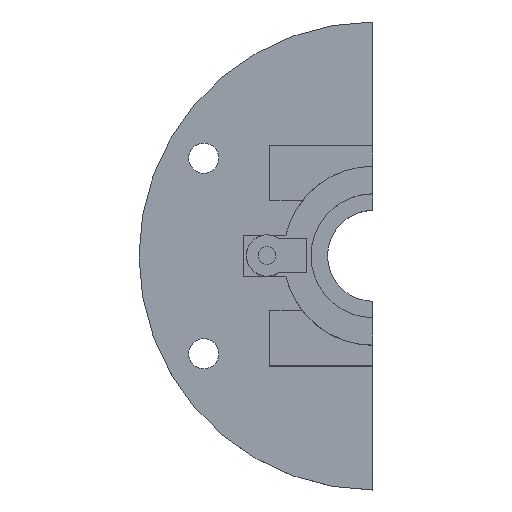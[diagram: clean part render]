
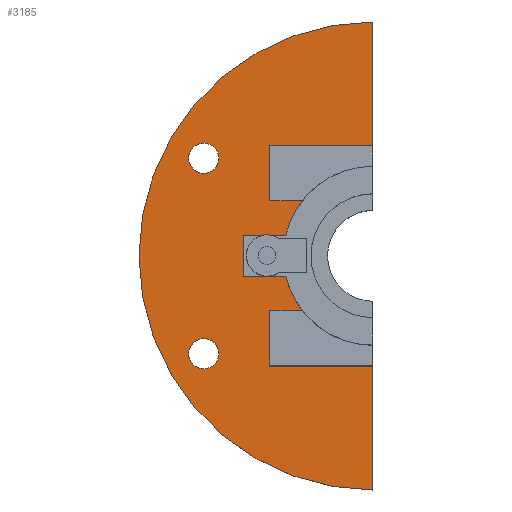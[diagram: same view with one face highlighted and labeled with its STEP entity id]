
A CAD part, top view. The second image highlights one B-rep face of the part: STEP entity #3185.
In plain terms, the highlighted planar face has unit normal (0, 0, 1).
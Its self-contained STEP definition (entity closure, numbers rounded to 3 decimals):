
#33 = CYLINDRICAL_SURFACE('',#34,6.5);
#34 = AXIS2_PLACEMENT_3D('',#35,#36,#37);
#35 = CARTESIAN_POINT('',(0.,0.,1.5));
#36 = DIRECTION('',(0.,0.,1.));
#37 = DIRECTION('',(1.,0.,-0.));
#115 = VERTEX_POINT('',#116);
#116 = CARTESIAN_POINT('',(0.,6.5,3.));
#129 = PLANE('',#130);
#130 = AXIS2_PLACEMENT_3D('',#131,#132,#133);
#131 = CARTESIAN_POINT('',(0.,-60.,-70.));
#132 = DIRECTION('',(1.,0.,0.));
#133 = DIRECTION('',(0.,0.,1.));
#141 = EDGE_CURVE('',#115,#142,#144,.T.);
#142 = VERTEX_POINT('',#143);
#143 = CARTESIAN_POINT('',(0.,-6.5,3.));
#144 = SURFACE_CURVE('',#145,(#150,#157),.PCURVE_S1.);
#145 = CIRCLE('',#146,6.5);
#146 = AXIS2_PLACEMENT_3D('',#147,#148,#149);
#147 = CARTESIAN_POINT('',(0.,0.,3.));
#148 = DIRECTION('',(0.,0.,1.));
#149 = DIRECTION('',(1.,0.,-0.));
#150 = PCURVE('',#33,#151);
#151 = DEFINITIONAL_REPRESENTATION('',(#152),#156);
#152 = LINE('',#153,#154);
#153 = CARTESIAN_POINT('',(0.,1.5));
#154 = VECTOR('',#155,1.);
#155 = DIRECTION('',(1.,0.));
#156 = ( GEOMETRIC_REPRESENTATION_CONTEXT(2) 
PARAMETRIC_REPRESENTATION_CONTEXT() REPRESENTATION_CONTEXT('2D SPACE',''
  ) );
#157 = PCURVE('',#158,#163);
#158 = PLANE('',#159);
#159 = AXIS2_PLACEMENT_3D('',#160,#161,#162);
#160 = CARTESIAN_POINT('',(0.,0.,3.));
#161 = DIRECTION('',(0.,0.,1.));
#162 = DIRECTION('',(1.,0.,-0.));
#163 = DEFINITIONAL_REPRESENTATION('',(#164),#168);
#164 = CIRCLE('',#165,6.5);
#165 = AXIS2_PLACEMENT_2D('',#166,#167);
#166 = CARTESIAN_POINT('',(0.,0.));
#167 = DIRECTION('',(1.,0.));
#168 = ( GEOMETRIC_REPRESENTATION_CONTEXT(2) 
PARAMETRIC_REPRESENTATION_CONTEXT() REPRESENTATION_CONTEXT('2D SPACE',''
  ) );
#185 = PLANE('',#186);
#186 = AXIS2_PLACEMENT_3D('',#187,#188,#189);
#187 = CARTESIAN_POINT('',(0.,-60.,-70.));
#188 = DIRECTION('',(1.,0.,0.));
#189 = DIRECTION('',(0.,0.,1.));
#771 = VERTEX_POINT('',#772);
#772 = CARTESIAN_POINT('',(0.,17.,3.));
#786 = CYLINDRICAL_SURFACE('',#787,17.);
#787 = AXIS2_PLACEMENT_3D('',#788,#789,#790);
#788 = CARTESIAN_POINT('',(0.,0.,1.5));
#789 = DIRECTION('',(0.,0.,1.));
#790 = DIRECTION('',(1.,0.,-0.));
#797 = EDGE_CURVE('',#115,#771,#798,.T.);
#798 = SURFACE_CURVE('',#799,(#803,#810),.PCURVE_S1.);
#799 = LINE('',#800,#801);
#800 = CARTESIAN_POINT('',(0.,-30.,3.));
#801 = VECTOR('',#802,1.);
#802 = DIRECTION('',(0.,1.,0.));
#803 = PCURVE('',#129,#804);
#804 = DEFINITIONAL_REPRESENTATION('',(#805),#809);
#805 = LINE('',#806,#807);
#806 = CARTESIAN_POINT('',(73.,-30.));
#807 = VECTOR('',#808,1.);
#808 = DIRECTION('',(0.,-1.));
#809 = ( GEOMETRIC_REPRESENTATION_CONTEXT(2) 
PARAMETRIC_REPRESENTATION_CONTEXT() REPRESENTATION_CONTEXT('2D SPACE',''
  ) );
#810 = PCURVE('',#158,#811);
#811 = DEFINITIONAL_REPRESENTATION('',(#812),#816);
#812 = LINE('',#813,#814);
#813 = CARTESIAN_POINT('',(0.,-30.));
#814 = VECTOR('',#815,1.);
#815 = DIRECTION('',(0.,1.));
#816 = ( GEOMETRIC_REPRESENTATION_CONTEXT(2) 
PARAMETRIC_REPRESENTATION_CONTEXT() REPRESENTATION_CONTEXT('2D SPACE',''
  ) );
#1122 = EDGE_CURVE('',#1123,#142,#1125,.T.);
#1123 = VERTEX_POINT('',#1124);
#1124 = CARTESIAN_POINT('',(0.,-17.,3.));
#1125 = SURFACE_CURVE('',#1126,(#1130,#1137),.PCURVE_S1.);
#1126 = LINE('',#1127,#1128);
#1127 = CARTESIAN_POINT('',(0.,-30.,3.));
#1128 = VECTOR('',#1129,1.);
#1129 = DIRECTION('',(0.,1.,0.));
#1130 = PCURVE('',#185,#1131);
#1131 = DEFINITIONAL_REPRESENTATION('',(#1132),#1136);
#1132 = LINE('',#1133,#1134);
#1133 = CARTESIAN_POINT('',(73.,-30.));
#1134 = VECTOR('',#1135,1.);
#1135 = DIRECTION('',(0.,-1.));
#1136 = ( GEOMETRIC_REPRESENTATION_CONTEXT(2) 
PARAMETRIC_REPRESENTATION_CONTEXT() REPRESENTATION_CONTEXT('2D SPACE',''
  ) );
#1137 = PCURVE('',#158,#1138);
#1138 = DEFINITIONAL_REPRESENTATION('',(#1139),#1143);
#1139 = LINE('',#1140,#1141);
#1140 = CARTESIAN_POINT('',(0.,-30.));
#1141 = VECTOR('',#1142,1.);
#1142 = DIRECTION('',(0.,1.));
#1143 = ( GEOMETRIC_REPRESENTATION_CONTEXT(2) 
PARAMETRIC_REPRESENTATION_CONTEXT() REPRESENTATION_CONTEXT('2D SPACE',''
  ) );
#3185 = ADVANCED_FACE('',(#3186,#3213,#3244),#158,.T.);
#3186 = FACE_BOUND('',#3187,.T.);
#3187 = EDGE_LOOP('',(#3188,#3189,#3211,#3212));
#3188 = ORIENTED_EDGE('',*,*,#797,.T.);
#3189 = ORIENTED_EDGE('',*,*,#3190,.T.);
#3190 = EDGE_CURVE('',#771,#1123,#3191,.T.);
#3191 = SURFACE_CURVE('',#3192,(#3197,#3204),.PCURVE_S1.);
#3192 = CIRCLE('',#3193,17.);
#3193 = AXIS2_PLACEMENT_3D('',#3194,#3195,#3196);
#3194 = CARTESIAN_POINT('',(0.,0.,3.));
#3195 = DIRECTION('',(0.,0.,1.));
#3196 = DIRECTION('',(1.,0.,-0.));
#3197 = PCURVE('',#158,#3198);
#3198 = DEFINITIONAL_REPRESENTATION('',(#3199),#3203);
#3199 = CIRCLE('',#3200,17.);
#3200 = AXIS2_PLACEMENT_2D('',#3201,#3202);
#3201 = CARTESIAN_POINT('',(0.,0.));
#3202 = DIRECTION('',(1.,0.));
#3203 = ( GEOMETRIC_REPRESENTATION_CONTEXT(2) 
PARAMETRIC_REPRESENTATION_CONTEXT() REPRESENTATION_CONTEXT('2D SPACE',''
  ) );
#3204 = PCURVE('',#786,#3205);
#3205 = DEFINITIONAL_REPRESENTATION('',(#3206),#3210);
#3206 = LINE('',#3207,#3208);
#3207 = CARTESIAN_POINT('',(0.,1.5));
#3208 = VECTOR('',#3209,1.);
#3209 = DIRECTION('',(1.,0.));
#3210 = ( GEOMETRIC_REPRESENTATION_CONTEXT(2) 
PARAMETRIC_REPRESENTATION_CONTEXT() REPRESENTATION_CONTEXT('2D SPACE',''
  ) );
#3211 = ORIENTED_EDGE('',*,*,#1122,.T.);
#3212 = ORIENTED_EDGE('',*,*,#141,.F.);
#3213 = FACE_BOUND('',#3214,.T.);
#3214 = EDGE_LOOP('',(#3215));
#3215 = ORIENTED_EDGE('',*,*,#3216,.F.);
#3216 = EDGE_CURVE('',#3217,#3217,#3219,.T.);
#3217 = VERTEX_POINT('',#3218);
#3218 = CARTESIAN_POINT('',(-11.2,-7.1,3.));
#3219 = SURFACE_CURVE('',#3220,(#3225,#3232),.PCURVE_S1.);
#3220 = CIRCLE('',#3221,1.1);
#3221 = AXIS2_PLACEMENT_3D('',#3222,#3223,#3224);
#3222 = CARTESIAN_POINT('',(-12.3,-7.1,3.));
#3223 = DIRECTION('',(0.,0.,1.));
#3224 = DIRECTION('',(1.,0.,-0.));
#3225 = PCURVE('',#158,#3226);
#3226 = DEFINITIONAL_REPRESENTATION('',(#3227),#3231);
#3227 = CIRCLE('',#3228,1.1);
#3228 = AXIS2_PLACEMENT_2D('',#3229,#3230);
#3229 = CARTESIAN_POINT('',(-12.3,-7.1));
#3230 = DIRECTION('',(1.,0.));
#3231 = ( GEOMETRIC_REPRESENTATION_CONTEXT(2) 
PARAMETRIC_REPRESENTATION_CONTEXT() REPRESENTATION_CONTEXT('2D SPACE',''
  ) );
#3232 = PCURVE('',#3233,#3238);
#3233 = CYLINDRICAL_SURFACE('',#3234,1.1);
#3234 = AXIS2_PLACEMENT_3D('',#3235,#3236,#3237);
#3235 = CARTESIAN_POINT('',(-12.3,-7.1,1.4));
#3236 = DIRECTION('',(0.,0.,1.));
#3237 = DIRECTION('',(1.,0.,-0.));
#3238 = DEFINITIONAL_REPRESENTATION('',(#3239),#3243);
#3239 = LINE('',#3240,#3241);
#3240 = CARTESIAN_POINT('',(0.,1.6));
#3241 = VECTOR('',#3242,1.);
#3242 = DIRECTION('',(1.,0.));
#3243 = ( GEOMETRIC_REPRESENTATION_CONTEXT(2) 
PARAMETRIC_REPRESENTATION_CONTEXT() REPRESENTATION_CONTEXT('2D SPACE',''
  ) );
#3244 = FACE_BOUND('',#3245,.T.);
#3245 = EDGE_LOOP('',(#3246));
#3246 = ORIENTED_EDGE('',*,*,#3247,.F.);
#3247 = EDGE_CURVE('',#3248,#3248,#3250,.T.);
#3248 = VERTEX_POINT('',#3249);
#3249 = CARTESIAN_POINT('',(-11.2,7.1,3.));
#3250 = SURFACE_CURVE('',#3251,(#3256,#3263),.PCURVE_S1.);
#3251 = CIRCLE('',#3252,1.1);
#3252 = AXIS2_PLACEMENT_3D('',#3253,#3254,#3255);
#3253 = CARTESIAN_POINT('',(-12.3,7.1,3.));
#3254 = DIRECTION('',(0.,0.,1.));
#3255 = DIRECTION('',(1.,0.,-0.));
#3256 = PCURVE('',#158,#3257);
#3257 = DEFINITIONAL_REPRESENTATION('',(#3258),#3262);
#3258 = CIRCLE('',#3259,1.1);
#3259 = AXIS2_PLACEMENT_2D('',#3260,#3261);
#3260 = CARTESIAN_POINT('',(-12.3,7.1));
#3261 = DIRECTION('',(1.,0.));
#3262 = ( GEOMETRIC_REPRESENTATION_CONTEXT(2) 
PARAMETRIC_REPRESENTATION_CONTEXT() REPRESENTATION_CONTEXT('2D SPACE',''
  ) );
#3263 = PCURVE('',#3264,#3269);
#3264 = CYLINDRICAL_SURFACE('',#3265,1.1);
#3265 = AXIS2_PLACEMENT_3D('',#3266,#3267,#3268);
#3266 = CARTESIAN_POINT('',(-12.3,7.1,1.4));
#3267 = DIRECTION('',(0.,0.,1.));
#3268 = DIRECTION('',(1.,0.,-0.));
#3269 = DEFINITIONAL_REPRESENTATION('',(#3270),#3274);
#3270 = LINE('',#3271,#3272);
#3271 = CARTESIAN_POINT('',(0.,1.6));
#3272 = VECTOR('',#3273,1.);
#3273 = DIRECTION('',(1.,0.));
#3274 = ( GEOMETRIC_REPRESENTATION_CONTEXT(2) 
PARAMETRIC_REPRESENTATION_CONTEXT() REPRESENTATION_CONTEXT('2D SPACE',''
  ) );
